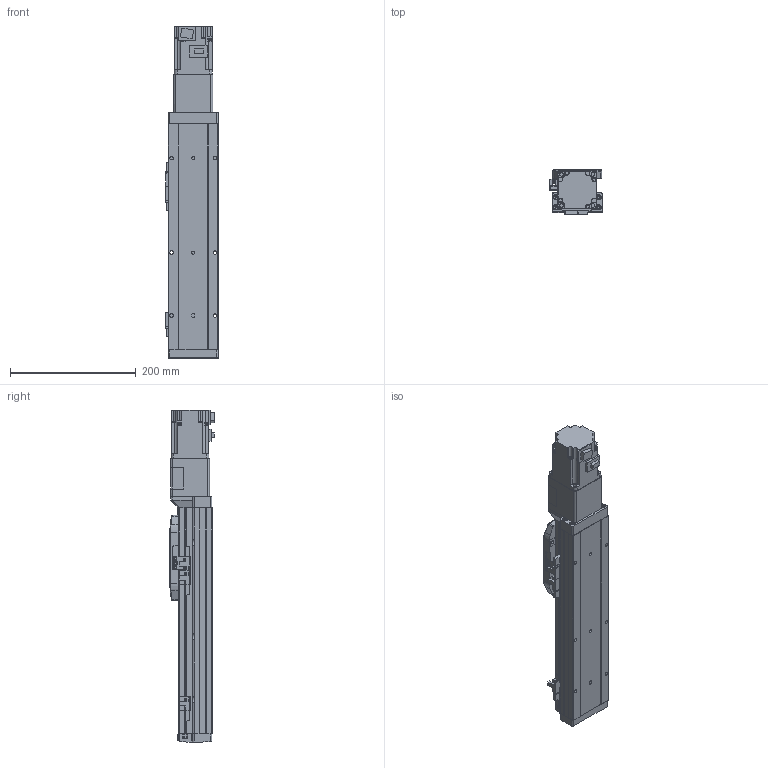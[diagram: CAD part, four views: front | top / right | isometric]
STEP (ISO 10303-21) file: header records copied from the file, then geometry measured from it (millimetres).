
FILE_DESCRIPTION (( 'STEP AP214' ), '1' );
FILE_NAME ('GSH8-200-BC-M20-1.step', '2025-01-07T06:03:15', ( '' ), ( '' ), 'SwSTEP 2.0', 'SolidWorks 2012', '' );
FILE_SCHEMA (( 'AUTOMOTIVE_DESIGN' ));
Length unit declared in the file: millimetre
Products named in the file (4): GSH8-GY-004; HG-KR23_200W_Motor; GSH8-200-BC-M20-1; GSH8-BC-011-200-M20
Assembly tree (3 placements, depth 2):
  GSH8-200-BC-M20-1
    GSH8-BC-011-200-M20
    GSH8-GY-004
    HG-KR23_200W_Motor
Bounding box: 84 x 71.3 x 527.6 mm (x, y, z)
Volume: 1306797.3 mm3; surface area: 310221.8 mm2
Topology: 3 solids, 7 shells, 1090 faces, 2873 edges, 1848 vertices
Faces by surface type: plane 634, cylinder 364, torus 38, cone 26, bspline 24, sphere 4
Entity records: 42879 total; most frequent: CARTESIAN_POINT 9711, DIRECTION 5813, ORIENTED_EDGE 5730, EDGE_CURVE 2865, AXIS2_PLACEMENT_3D 1946, LINE 1921, VECTOR 1921, VERTEX_POINT 1844
